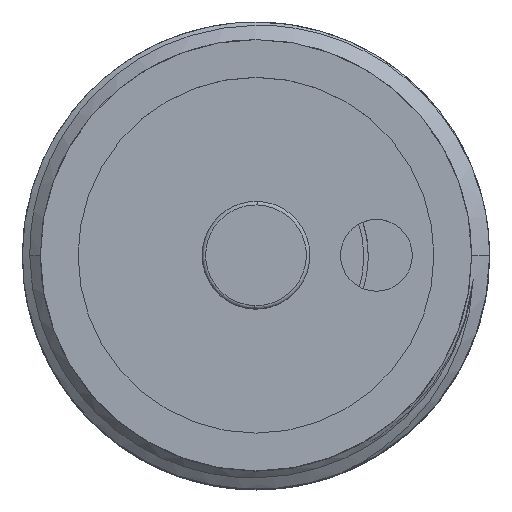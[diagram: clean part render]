
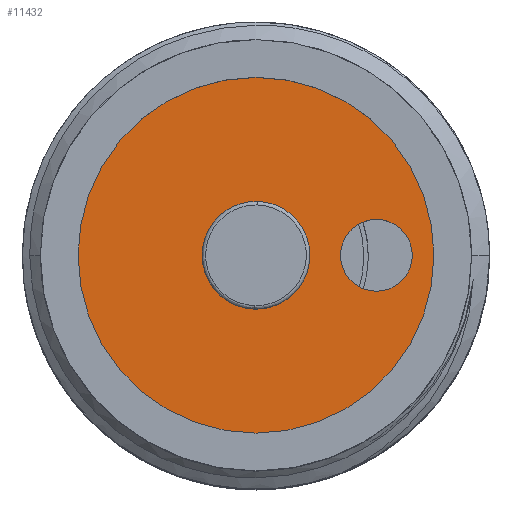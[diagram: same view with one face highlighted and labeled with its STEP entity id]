
A CAD part, top view. The second image highlights one B-rep face of the part: STEP entity #11432.
In plain terms, the highlighted planar face has unit normal (0, 0, 1) as drawn and (-1, 0, 0) by its records, which use the part's own axes.
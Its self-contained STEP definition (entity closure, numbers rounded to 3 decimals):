
#482 = ORIENTED_EDGE ( 'NONE', *, *, #2703, .F. ) ;
#680 = AXIS2_PLACEMENT_3D ( 'NONE', #4697, #3782, #10361 ) ;
#855 = DIRECTION ( 'NONE',  ( 0., 0., -1. ) ) ;
#1164 = DIRECTION ( 'NONE',  ( 0., 0., -1. ) ) ;
#1261 = CARTESIAN_POINT ( 'NONE',  ( 0., 0., -2. ) ) ;
#1683 = CARTESIAN_POINT ( 'NONE',  ( 0., 0., 0. ) ) ;
#1802 = VERTEX_POINT ( 'NONE', #6209 ) ;
#2110 = AXIS2_PLACEMENT_3D ( 'NONE', #5102, #8777, #6978 ) ;
#2601 = DIRECTION ( 'NONE',  ( -1., 0., 0. ) ) ;
#2628 = DIRECTION ( 'NONE',  ( 1., 0., 0. ) ) ;
#2703 = EDGE_CURVE ( 'NONE', #11284, #3597, #4895, .T. ) ;
#2844 = VERTEX_POINT ( 'NONE', #1261 ) ;
#3081 = DIRECTION ( 'NONE',  ( 0., 0., -1. ) ) ;
#3272 = AXIS2_PLACEMENT_3D ( 'NONE', #4581, #2601, #855 ) ;
#3432 = FACE_BOUND ( 'NONE', #4739, .T. ) ;
#3597 = VERTEX_POINT ( 'NONE', #9293 ) ;
#3671 = EDGE_CURVE ( 'NONE', #1802, #2844, #4513, .T. ) ;
#3782 = DIRECTION ( 'NONE',  ( 1., 0., 0. ) ) ;
#3817 = EDGE_LOOP ( 'NONE', ( #11315, #10424 ) ) ;
#3837 = EDGE_CURVE ( 'NONE', #9256, #9395, #10670, .T. ) ;
#4513 = CIRCLE ( 'NONE', #3272, 2. ) ;
#4581 = CARTESIAN_POINT ( 'NONE',  ( 0., 0., 0. ) ) ;
#4697 = CARTESIAN_POINT ( 'NONE',  ( 0., 0., 0. ) ) ;
#4737 = DIRECTION ( 'NONE',  ( 0., 0., -1. ) ) ;
#4739 = EDGE_LOOP ( 'NONE', ( #5239, #482 ) ) ;
#4803 = EDGE_CURVE ( 'NONE', #3597, #11284, #9627, .T. ) ;
#4895 = CIRCLE ( 'NONE', #2110, 2. ) ;
#4918 = DIRECTION ( 'NONE',  ( -1., 0., 0. ) ) ;
#5024 = AXIS2_PLACEMENT_3D ( 'NONE', #6599, #11208, #4737 ) ;
#5102 = CARTESIAN_POINT ( 'NONE',  ( 0., -6.7, 0. ) ) ;
#5188 = CARTESIAN_POINT ( 'NONE',  ( 0., 0., 10.1 ) ) ;
#5239 = ORIENTED_EDGE ( 'NONE', *, *, #4803, .F. ) ;
#5493 = FACE_BOUND ( 'NONE', #8055, .T. ) ;
#6209 = CARTESIAN_POINT ( 'NONE',  ( 0., 0., 2. ) ) ;
#6445 = AXIS2_PLACEMENT_3D ( 'NONE', #1683, #2628, #12079 ) ;
#6448 = ORIENTED_EDGE ( 'NONE', *, *, #8284, .F. ) ;
#6599 = CARTESIAN_POINT ( 'NONE',  ( 0., 0., 0. ) ) ;
#6897 = CIRCLE ( 'NONE', #6898, 2. ) ;
#6898 = AXIS2_PLACEMENT_3D ( 'NONE', #6902, #11640, #3081 ) ;
#6902 = CARTESIAN_POINT ( 'NONE',  ( 0., 0., 0. ) ) ;
#6978 = DIRECTION ( 'NONE',  ( 0., 0., -1. ) ) ;
#7114 = CARTESIAN_POINT ( 'NONE',  ( 0., -6.7, 2. ) ) ;
#7194 = PLANE ( 'NONE',  #6445 ) ;
#7263 = FACE_OUTER_BOUND ( 'NONE', #3817, .T. ) ;
#8055 = EDGE_LOOP ( 'NONE', ( #6448, #11462 ) ) ;
#8284 = EDGE_CURVE ( 'NONE', #2844, #1802, #6897, .T. ) ;
#8585 = EDGE_CURVE ( 'NONE', #9395, #9256, #11016, .T. ) ;
#8777 = DIRECTION ( 'NONE',  ( -1., 0., 0. ) ) ;
#9256 = VERTEX_POINT ( 'NONE', #11322 ) ;
#9293 = CARTESIAN_POINT ( 'NONE',  ( 0., -6.7, -2. ) ) ;
#9395 = VERTEX_POINT ( 'NONE', #5188 ) ;
#9627 = CIRCLE ( 'NONE', #10985, 2. ) ;
#10361 = DIRECTION ( 'NONE',  ( 0., 0., -1. ) ) ;
#10424 = ORIENTED_EDGE ( 'NONE', *, *, #8585, .F. ) ;
#10569 = CARTESIAN_POINT ( 'NONE',  ( 0., -6.7, 0. ) ) ;
#10670 = CIRCLE ( 'NONE', #680, 10.1 ) ;
#10985 = AXIS2_PLACEMENT_3D ( 'NONE', #10569, #4918, #1164 ) ;
#11016 = CIRCLE ( 'NONE', #5024, 10.1 ) ;
#11208 = DIRECTION ( 'NONE',  ( 1., 0., 0. ) ) ;
#11284 = VERTEX_POINT ( 'NONE', #7114 ) ;
#11315 = ORIENTED_EDGE ( 'NONE', *, *, #3837, .F. ) ;
#11322 = CARTESIAN_POINT ( 'NONE',  ( 0., 0., -10.1 ) ) ;
#11432 = ADVANCED_FACE ( 'NONE', ( #3432, #5493, #7263 ), #7194, .F. ) ;
#11462 = ORIENTED_EDGE ( 'NONE', *, *, #3671, .F. ) ;
#11640 = DIRECTION ( 'NONE',  ( -1., 0., 0. ) ) ;
#12079 = DIRECTION ( 'NONE',  ( 0., 0., -1. ) ) ;
